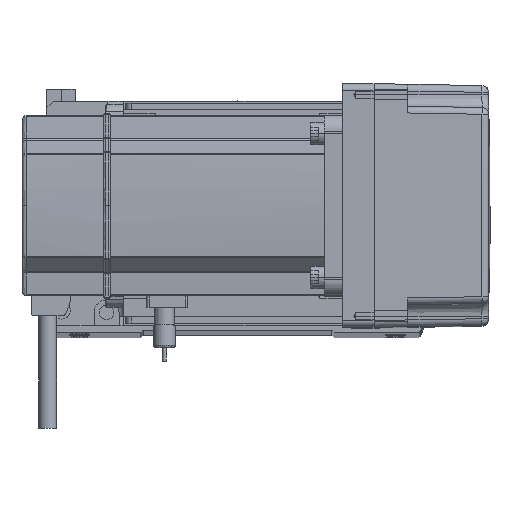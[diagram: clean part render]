
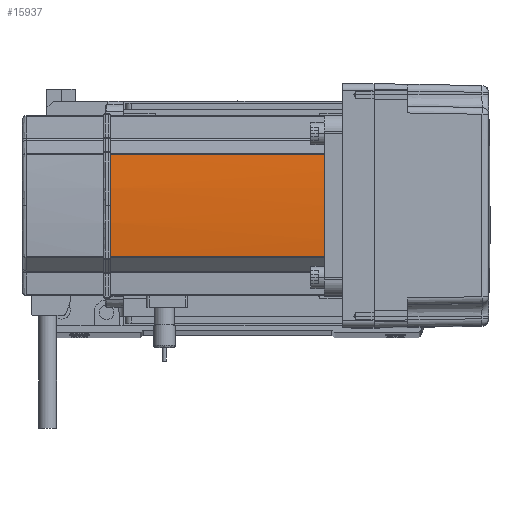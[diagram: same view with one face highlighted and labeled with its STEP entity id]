
A CAD part, top view. The second image highlights one B-rep face of the part: STEP entity #15937.
In plain terms, the highlighted cylindrical face has radius 270 mm (diameter 540 mm), a partial arc.
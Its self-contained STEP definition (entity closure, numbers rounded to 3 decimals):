
#128 = DIRECTION ( 'NONE',  ( 1., 0., 0. ) ) ;
#1126 = CIRCLE ( 'NONE', #34254, 270. ) ;
#3220 = CARTESIAN_POINT ( 'NONE',  ( -40., 0., 134. ) ) ;
#4406 = CARTESIAN_POINT ( 'NONE',  ( -39.042, -22.724, 39. ) ) ;
#5218 = DIRECTION ( 'NONE',  ( 1., 0., 0. ) ) ;
#9627 = VERTEX_POINT ( 'NONE', #20957 ) ;
#12179 = CARTESIAN_POINT ( 'NONE',  ( -39.042, -22.724, 0. ) ) ;
#13318 = DIRECTION ( 'NONE',  ( 0., 0., -1. ) ) ;
#14051 = ORIENTED_EDGE ( 'NONE', *, *, #31616, .T. ) ;
#15937 = ADVANCED_FACE ( 'NONE', ( #40659 ), #34953, .T. ) ;
#18195 = DIRECTION ( 'NONE',  ( 0., 0., 1. ) ) ;
#18689 = EDGE_CURVE ( 'NONE', #9627, #49314, #23874, .T. ) ;
#19186 = CIRCLE ( 'NONE', #55236, 270. ) ;
#19634 = CARTESIAN_POINT ( 'NONE',  ( -39.042, 22.724, 0. ) ) ;
#20261 = VERTEX_POINT ( 'NONE', #3220 ) ;
#20957 = CARTESIAN_POINT ( 'NONE',  ( -39.042, 22.724, 134. ) ) ;
#21738 = VECTOR ( 'NONE', #43517, 1000. ) ;
#22870 = ORIENTED_EDGE ( 'NONE', *, *, #18689, .T. ) ;
#23286 = CARTESIAN_POINT ( 'NONE',  ( 230., 0., 134. ) ) ;
#23874 = LINE ( 'NONE', #19634, #33069 ) ;
#24376 = DIRECTION ( 'NONE',  ( 0., 0., -1. ) ) ;
#24897 = ORIENTED_EDGE ( 'NONE', *, *, #50793, .T. ) ;
#25774 = EDGE_CURVE ( 'NONE', #20261, #9627, #30012, .T. ) ;
#26038 = DIRECTION ( 'NONE',  ( 1., 0., 0. ) ) ;
#26394 = CARTESIAN_POINT ( 'NONE',  ( 230., 0., 39. ) ) ;
#26802 = CARTESIAN_POINT ( 'NONE',  ( -39.042, -22.724, 134. ) ) ;
#28237 = EDGE_CURVE ( 'NONE', #47809, #49314, #19186, .T. ) ;
#30012 = CIRCLE ( 'NONE', #46461, 270. ) ;
#31616 = EDGE_CURVE ( 'NONE', #53349, #20261, #1126, .T. ) ;
#32191 = DIRECTION ( 'NONE',  ( 0., 0., -1. ) ) ;
#33069 = VECTOR ( 'NONE', #24376, 1000. ) ;
#34254 = AXIS2_PLACEMENT_3D ( 'NONE', #23286, #32191, #5218 ) ;
#34953 = CYLINDRICAL_SURFACE ( 'NONE', #44914, 270. ) ;
#36028 = CARTESIAN_POINT ( 'NONE',  ( -39.042, 22.724, 39. ) ) ;
#36483 = EDGE_LOOP ( 'NONE', ( #14051, #42775, #22870, #50435, #24897 ) ) ;
#39538 = DIRECTION ( 'NONE',  ( 0., 0., -1. ) ) ;
#40659 = FACE_OUTER_BOUND ( 'NONE', #36483, .T. ) ;
#42775 = ORIENTED_EDGE ( 'NONE', *, *, #25774, .T. ) ;
#43517 = DIRECTION ( 'NONE',  ( 0., 0., 1. ) ) ;
#43908 = CARTESIAN_POINT ( 'NONE',  ( 230., 0., 134. ) ) ;
#44914 = AXIS2_PLACEMENT_3D ( 'NONE', #45361, #18195, #128 ) ;
#45361 = CARTESIAN_POINT ( 'NONE',  ( 230., 0., 0. ) ) ;
#46461 = AXIS2_PLACEMENT_3D ( 'NONE', #43908, #39538, #26038 ) ;
#47809 = VERTEX_POINT ( 'NONE', #4406 ) ;
#49314 = VERTEX_POINT ( 'NONE', #36028 ) ;
#50435 = ORIENTED_EDGE ( 'NONE', *, *, #28237, .F. ) ;
#50793 = EDGE_CURVE ( 'NONE', #47809, #53349, #55134, .T. ) ;
#53349 = VERTEX_POINT ( 'NONE', #26802 ) ;
#53951 = DIRECTION ( 'NONE',  ( 1., 0., 0. ) ) ;
#55134 = LINE ( 'NONE', #12179, #21738 ) ;
#55236 = AXIS2_PLACEMENT_3D ( 'NONE', #26394, #13318, #53951 ) ;
